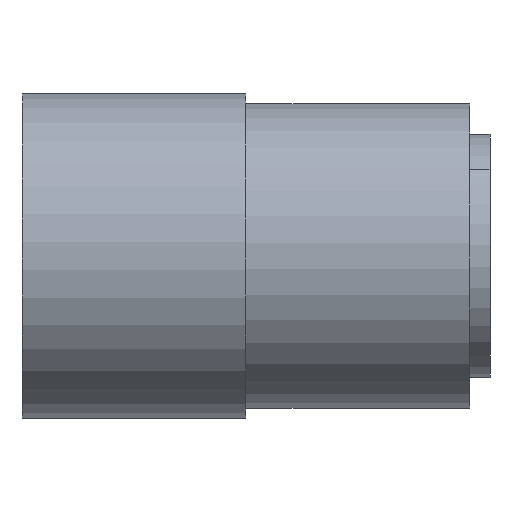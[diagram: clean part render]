
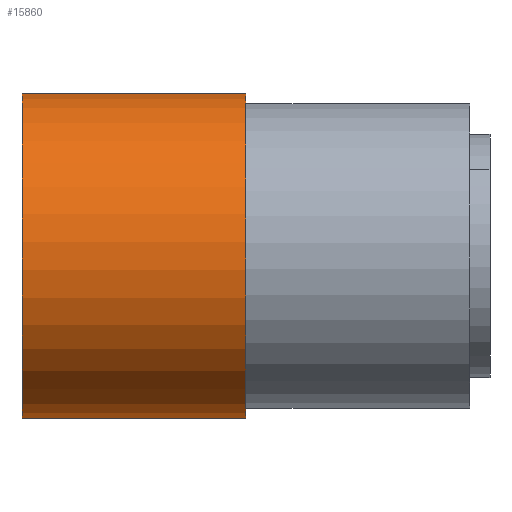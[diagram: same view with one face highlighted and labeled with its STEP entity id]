
A CAD part, front view. The second image highlights one B-rep face of the part: STEP entity #15860.
In plain terms, the highlighted cylindrical face has radius 8 mm (diameter 16 mm), a partial arc.
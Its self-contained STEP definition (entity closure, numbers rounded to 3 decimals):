
#120=CARTESIAN_POINT('',(37.253,46.67,0.));
#130=VERTEX_POINT('',#120);
#290=CARTESIAN_POINT('',(37.26,46.677,0.));
#300=VERTEX_POINT('',#290);
#330=CARTESIAN_POINT('',(31.6,52.33,0.));
#340=DIRECTION('',(0.,0.,1.));
#350=DIRECTION('',(1.,0.,0.));
#360=AXIS2_PLACEMENT_3D('',#330,#340,#350);
#370=CIRCLE('',#360,8.);
#380=EDGE_CURVE('',#300,#130,#370,.T.);
#8980=CARTESIAN_POINT('',(37.26,46.677,11.));
#8990=VERTEX_POINT('',#8980);
#9040=CARTESIAN_POINT('',(37.26,46.677,0.));
#9050=DIRECTION('',(0.,0.,1.));
#9060=VECTOR('',#9050,1.);
#9070=LINE('',#9040,#9060);
#9080=EDGE_CURVE('',#300,#8990,#9070,.T.);
#9420=CARTESIAN_POINT('',(37.253,46.67,0.));
#9430=DIRECTION('',(0.,0.,1.));
#9440=VECTOR('',#9430,1.);
#9450=LINE('',#9420,#9440);
#9460=CARTESIAN_POINT('',(37.253,46.67,11.));
#9470=VERTEX_POINT('',#9460);
#9480=EDGE_CURVE('',#130,#9470,#9450,.T.);
#15170=CARTESIAN_POINT('',(31.6,52.33,11.));
#15180=DIRECTION('',(0.,0.,1.));
#15190=DIRECTION('',(1.,0.,0.));
#15200=AXIS2_PLACEMENT_3D('',#15170,#15180,#15190);
#15210=CIRCLE('',#15200,8.);
#15220=EDGE_CURVE('',#8990,#9470,#15210,.T.);
#15750=CARTESIAN_POINT('',(31.6,52.33,0.));
#15760=DIRECTION('',(0.,0.,1.));
#15770=DIRECTION('',(1.,0.,0.));
#15780=AXIS2_PLACEMENT_3D('',#15750,#15760,#15770);
#15790=CYLINDRICAL_SURFACE('',#15780,8.);
#15800=ORIENTED_EDGE('',*,*,#9480,.T.);
#15810=ORIENTED_EDGE('',*,*,#380,.T.);
#15820=ORIENTED_EDGE('',*,*,#9080,.F.);
#15830=ORIENTED_EDGE('',*,*,#15220,.F.);
#15840=EDGE_LOOP('',(#15830,#15820,#15810,#15800));
#15850=FACE_OUTER_BOUND('',#15840,.T.);
#15860=ADVANCED_FACE('',(#15850),#15790,.T.);
